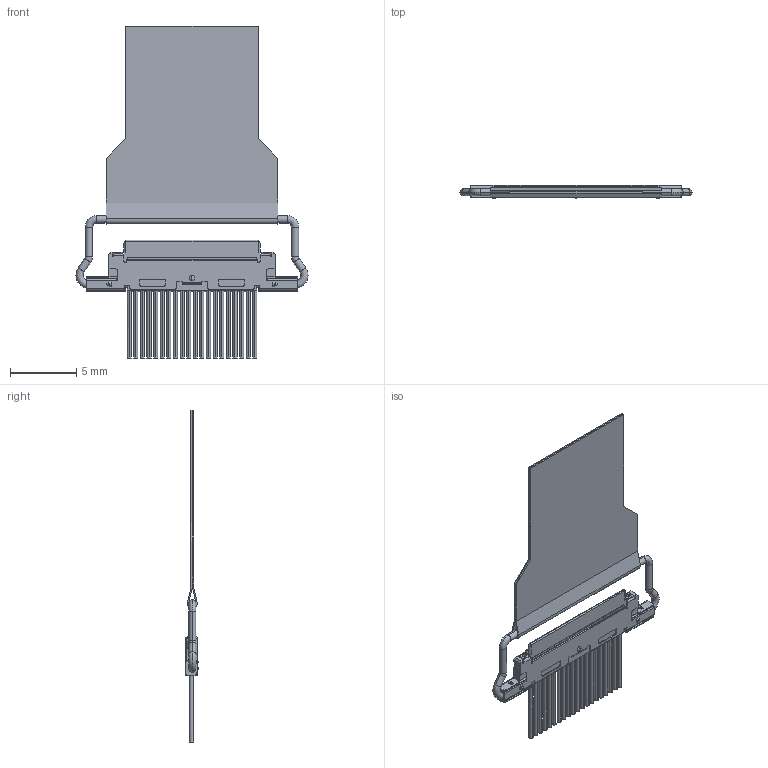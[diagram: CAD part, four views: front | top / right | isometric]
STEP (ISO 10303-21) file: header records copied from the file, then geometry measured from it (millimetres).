
FILE_DESCRIPTION (( 'STEP AP203' ), '1' );
FILE_NAME ('20453-020T-x1C PLUG CABLE ASS''Y STEP R8R1R0 ALL.STEP', '2012-01-25T02:24:30', ( '' ), ( '' ), 'SwSTEP 2.0', 'SolidWorks 2011', '' );
FILE_SCHEMA (( 'CONFIG_CONTROL_DESIGN' ));
Length unit declared in the file: millimetre
Products named in the file (1): 20453-020T-x1C PLUG CABLE ASS''Y STEP R8R1R0 ALL
Bounding box: 17.55 x 1 x 25.11 mm (x, y, z)
Volume: 81.2 mm3; surface area: 960.9 mm2
Topology: 1 solids, 1 shells, 1204 faces, 3304 edges, 2135 vertices
Faces by surface type: plane 816, cylinder 312, cone 42, torus 24, sphere 10
Entity records: 37981 total; most frequent: CARTESIAN_POINT 7210, ORIENTED_EDGE 6600, DIRECTION 6188, EDGE_CURVE 3300, LINE 2510, VECTOR 2510, VERTEX_POINT 2135, AXIS2_PLACEMENT_3D 1839
